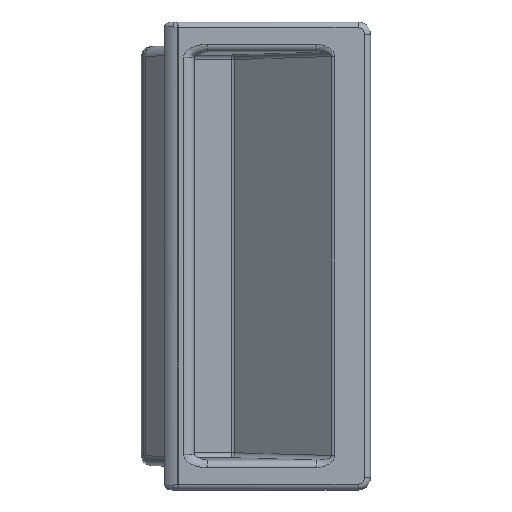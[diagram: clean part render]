
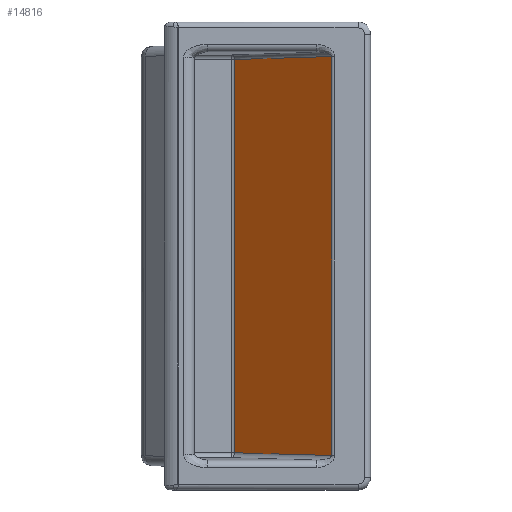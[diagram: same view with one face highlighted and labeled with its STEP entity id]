
A CAD part, top view. The second image highlights one B-rep face of the part: STEP entity #14816.
In plain terms, the highlighted planar face has unit normal (-0.648, 0, 0.762).
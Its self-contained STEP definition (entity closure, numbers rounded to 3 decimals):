
#398=DIRECTION('',(0.,1.,0.));
#399=VECTOR('',#398,80.138);
#400=CARTESIAN_POINT('',(29.669,-40.069,1.262));
#401=LINE('',#400,#399);
#524=DIRECTION('',(-0.762,0.023,-0.647));
#525=VECTOR('',#524,25.52);
#526=CARTESIAN_POINT('',(29.669,-40.069,1.262));
#527=LINE('',#526,#525);
#528=DIRECTION('',(0.762,0.023,0.647));
#529=VECTOR('',#528,25.52);
#530=CARTESIAN_POINT('',(10.229,39.492,-15.262));
#531=LINE('',#530,#529);
#607=DIRECTION('',(0.,-1.,0.));
#608=VECTOR('',#607,78.984);
#609=CARTESIAN_POINT('',(10.229,39.492,-15.262));
#610=LINE('',#609,#608);
#10861=CARTESIAN_POINT('',(29.669,-40.069,
1.262));
#10862=VERTEX_POINT('',#10861);
#10863=CARTESIAN_POINT('',(29.669,40.069,1.262));
#10864=VERTEX_POINT('',#10863);
#10881=CARTESIAN_POINT('',(10.229,39.492,
-15.262));
#10882=VERTEX_POINT('',#10881);
#10885=CARTESIAN_POINT('',(10.229,-39.492,
-15.262));
#10886=VERTEX_POINT('',#10885);
#14803=CARTESIAN_POINT('',(29.669,-47.,1.262));
#14804=DIRECTION('',(-0.648,0.,0.762));
#14805=DIRECTION('',(0.,-1.,0.));
#14806=AXIS2_PLACEMENT_3D('',#14803,#14804,#14805);
#14807=PLANE('',#14806);
#14809=ORIENTED_EDGE('',*,*,#14808,.T.);
#14811=ORIENTED_EDGE('',*,*,#14810,.F.);
#14812=ORIENTED_EDGE('',*,*,#14793,.T.);
#14813=ORIENTED_EDGE('',*,*,#14233,.F.);
#14814=EDGE_LOOP('',(#14809,#14811,#14812,#14813));
#14815=FACE_OUTER_BOUND('',#14814,.F.);
#14816=ADVANCED_FACE('',(#14815),#14807,.T.);
#14233=EDGE_CURVE('',#10862,#10864,#401,.T.);
#14793=EDGE_CURVE('',#10882,#10864,#531,.T.);
#14808=EDGE_CURVE('',#10862,#10886,#527,.T.);
#14810=EDGE_CURVE('',#10882,#10886,#610,.T.);
